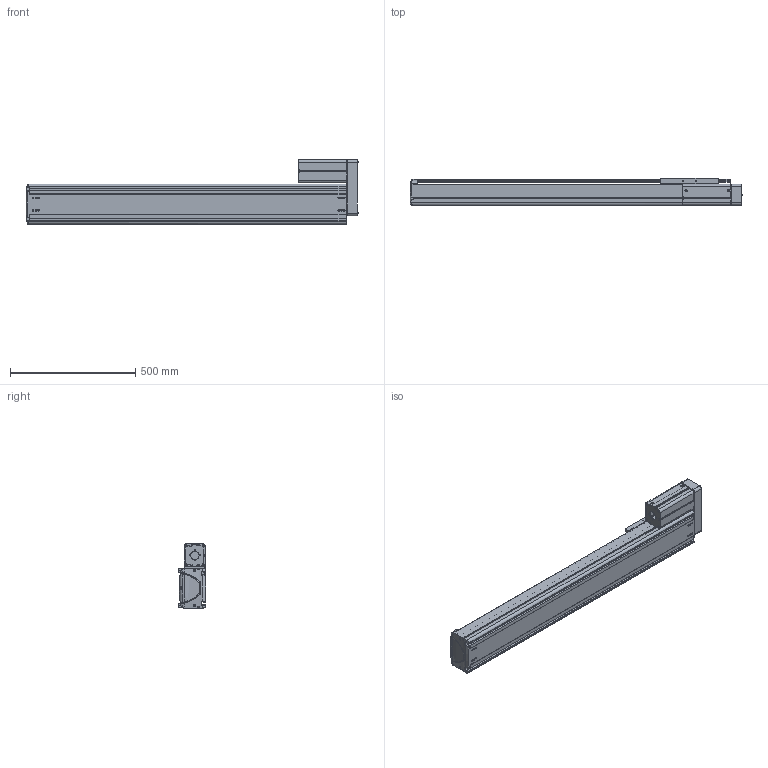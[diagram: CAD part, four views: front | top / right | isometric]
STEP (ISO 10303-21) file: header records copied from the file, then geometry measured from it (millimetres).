
FILE_DESCRIPTION((''),'2;1');
FILE_NAME('BE50F-UR-L_B-95_IGS_PRT','2017-06-18T',(' '),(''),'PRO/ENGINEER BY PARAMETRIC TECHNOLOGY CORPORATION, 2015030','PRO/ENGINEER BY PARAMETRIC TECHNOLOGY CORPORATION, 2015030','');
FILE_SCHEMA(('CONFIG_CONTROL_DESIGN'));
Length unit declared in the file: millimetre
Products named in the file (1): BE50F-UR-L_B-95_IGS_PRT
Bounding box: 1325.88 x 110 x 257 mm (x, y, z)
Volume: 5598825.3 mm3; surface area: 2292564.3 mm2
Topology: 6 solids, 140 shells, 2273 faces, 6240 edges, 4080 vertices
Faces by surface type: plane 1008, cylinder 987, cone 139, torus 59, bspline 48, sphere 32
Entity records: 75695 total; most frequent: CARTESIAN_POINT 17386, DIRECTION 12179, ORIENTED_EDGE 11868, EDGE_CURVE 6186, AXIS2_PLACEMENT_3D 4357, VERTEX_POINT 4074, VECTOR 3465, LINE 3465
